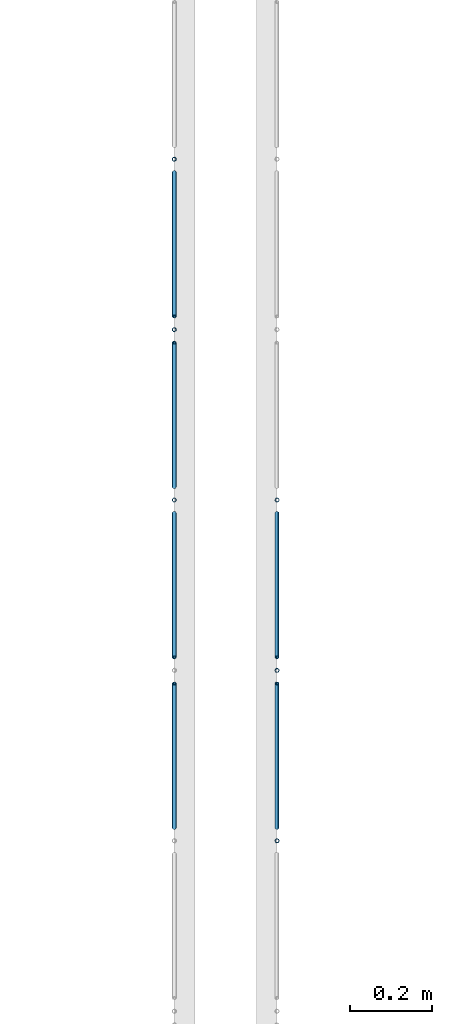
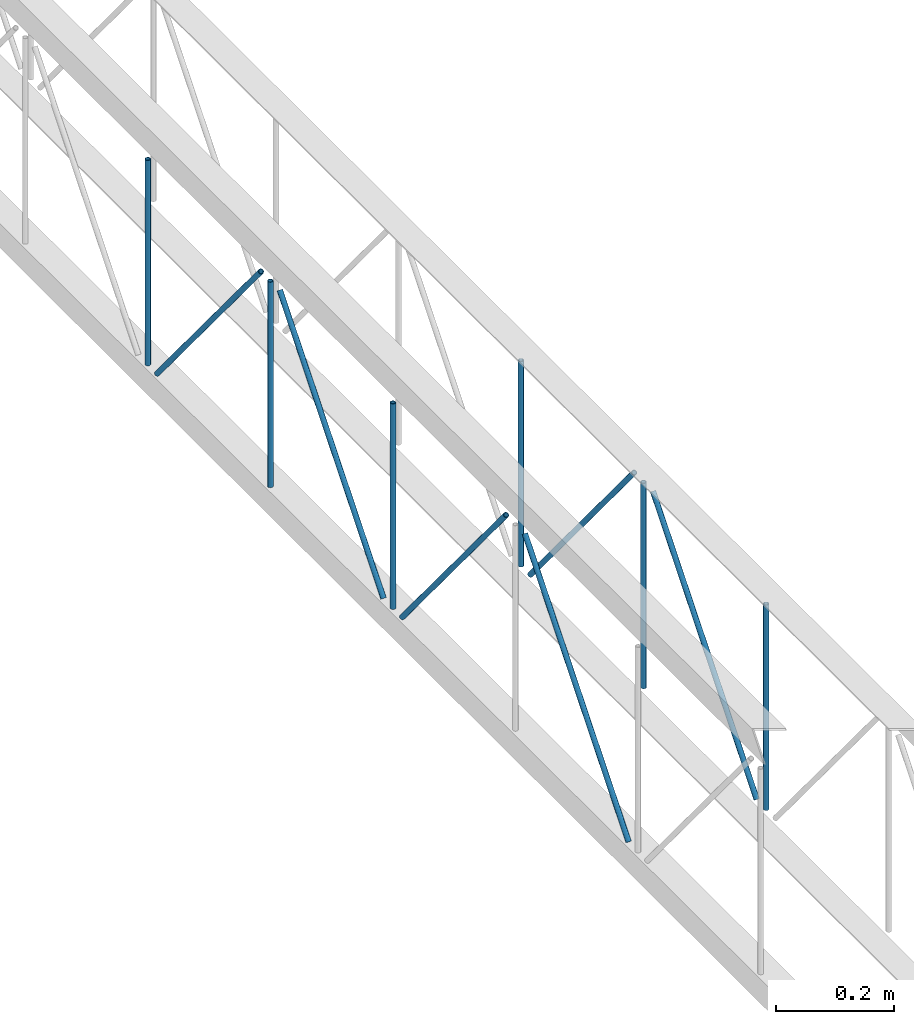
# One storey, part 49 of 153: 12 members, 2 elements without a shape of their own.
"""IFC4 building model written with IfcOpenShell, lengths in metres."""

from ifc_helpers import new_model, entity, si_unit, converted_unit, derived_unit, direction, frame, origin, place, context, subcontext, project, spatial, arc, indexed_curve, outline, extrude, source, transform, mapped, material, type_object, type_shapes, element, aggregate, save


model = new_model("IFC4")

# Units and contexts
model_context = context("Model", 3, precision=1e-05, world=origin(), true_north=direction((6.123031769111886e-17, 1.0)))
body_context = subcontext(model_context, "Body", "Model", "MODEL_VIEW")
ifc_project = project(units=[si_unit("LENGTHUNIT", "METRE"), si_unit("AREAUNIT", "SQUARE_METRE"), si_unit("VOLUMEUNIT", "CUBIC_METRE"), converted_unit("PLANEANGLEUNIT", "DEGREE", entity("IfcRatioMeasure", 0.017453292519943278), si_unit("PLANEANGLEUNIT", "RADIAN"), dimensions=[0, 0, 0, 0, 0, 0, 0]), si_unit("MASSUNIT", "GRAM", prefix="KILO"), derived_unit("MASSDENSITYUNIT", [(si_unit("MASSUNIT", "GRAM", prefix="KILO"), 1), (si_unit("LENGTHUNIT", "METRE"), -3)]), derived_unit("MOMENTOFINERTIAUNIT", [(si_unit("LENGTHUNIT", "METRE"), 4)]), si_unit("TIMEUNIT", "SECOND"), si_unit("FREQUENCYUNIT", "HERTZ"), si_unit("THERMODYNAMICTEMPERATUREUNIT", "DEGREE_CELSIUS"), derived_unit("THERMALTRANSMITTANCEUNIT", [(si_unit("MASSUNIT", "GRAM", prefix="KILO"), 1), (si_unit("THERMODYNAMICTEMPERATUREUNIT", "KELVIN"), -1), (si_unit("TIMEUNIT", "SECOND"), -3)]), derived_unit("VOLUMETRICFLOWRATEUNIT", [(si_unit("LENGTHUNIT", "METRE"), 3), (si_unit("TIMEUNIT", "SECOND"), -1)]), derived_unit("MASSFLOWRATEUNIT", [(si_unit("MASSUNIT", "GRAM", prefix="KILO"), 1), (si_unit("TIMEUNIT", "SECOND"), -1)]), derived_unit("ROTATIONALFREQUENCYUNIT", [(si_unit("TIMEUNIT", "SECOND"), -1)]), si_unit("ELECTRICCURRENTUNIT", "AMPERE"), si_unit("ELECTRICVOLTAGEUNIT", "VOLT"), si_unit("POWERUNIT", "WATT"), si_unit("FORCEUNIT", "NEWTON", prefix="KILO"), si_unit("ILLUMINANCEUNIT", "LUX"), si_unit("LUMINOUSFLUXUNIT", "LUMEN"), si_unit("LUMINOUSINTENSITYUNIT", "CANDELA"), derived_unit("USERDEFINED", [(si_unit("MASSUNIT", "GRAM", prefix="KILO"), -1), (si_unit("LENGTHUNIT", "METRE"), -2), (si_unit("TIMEUNIT", "SECOND"), 3), (si_unit("LUMINOUSFLUXUNIT", "LUMEN"), 1)]), derived_unit("SOUNDPOWERUNIT", [(si_unit("MASSUNIT", "GRAM", prefix="KILO"), 1), (si_unit("LENGTHUNIT", "METRE"), 2), (si_unit("TIMEUNIT", "SECOND"), -3)]), derived_unit("SOUNDPRESSUREUNIT", [(si_unit("MASSUNIT", "GRAM", prefix="KILO"), 1), (si_unit("LENGTHUNIT", "METRE"), -1), (si_unit("TIMEUNIT", "SECOND"), -2)]), derived_unit("LINEARVELOCITYUNIT", [(si_unit("LENGTHUNIT", "METRE"), 1), (si_unit("TIMEUNIT", "SECOND"), -1)]), si_unit("PRESSUREUNIT", "PASCAL"), derived_unit("USERDEFINED", [(si_unit("LENGTHUNIT", "METRE"), -2), (si_unit("MASSUNIT", "GRAM", prefix="KILO"), 1), (si_unit("TIMEUNIT", "SECOND"), -2)]), derived_unit("LINEARFORCEUNIT", [(si_unit("MASSUNIT", "GRAM", prefix="KILO"), 1), (si_unit("LENGTHUNIT", "METRE"), 1), (si_unit("TIMEUNIT", "SECOND"), -2), (si_unit("LENGTHUNIT", "METRE"), -1)]), derived_unit("PLANARFORCEUNIT", [(si_unit("MASSUNIT", "GRAM", prefix="KILO"), 1), (si_unit("LENGTHUNIT", "METRE"), 1), (si_unit("TIMEUNIT", "SECOND"), -2), (si_unit("LENGTHUNIT", "METRE"), -2)])], contexts=[model_context])

# Site, building, storey
site_placement = place(None, origin())
site = spatial("IfcSite", under=ifc_project, at=site_placement, Name="Superficie", CompositionType="ELEMENT")
building_placement = place(site_placement, origin())
building = spatial("IfcBuilding", under=site, at=building_placement, CompositionType="ELEMENT")
storey_placement = place(building_placement, frame((0.0, 0.0, 3.5999999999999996)))
storey = spatial("IfcBuildingStorey", under=building, at=storey_placement, Name="Nivel 1", CompositionType="ELEMENT", Elevation=3.5999999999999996)

# Assembly, members
assembly_1_placement = place(storey_placement, origin())
assembly_1 = element("IfcElementAssembly", 1, at=assembly_1_placement, inside=storey, Name="Viga de celosia 13:Viga de celosia 13", ObjectType="Viga de celosia 13:Viga de celosia 13", AssemblyPlace="NOTDEFINED", PredefinedType="TRUSS")
ifc_material = material(Name="Metal - Calibre delgado", Category="Metal")
member_type_1 = type_object("IfcMemberType", Name="HSS-Tubo estructural redondo:HSS 0.01", PredefinedType="BRACE", material=ifc_material)
shared_shape_1 = source(origin(), body_context, "Body", "SweptSolid", [
    extrude(outline(indexed_curve([(-0.005000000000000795, 7.502054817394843e-18), (-9.800269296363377e-18, -0.005000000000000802), (0.005000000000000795, -7.502054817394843e-18), (8.07772287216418e-18, 0.005000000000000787)], segments=[arc(1, 2, 3), arc(3, 4, 1)], self_intersect=False), holes=[indexed_curve([(0.003999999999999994, 7.222511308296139e-17), (6.910645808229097e-17, -0.004000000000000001), (-0.003999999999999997, -1.8650054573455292e-17), (-2.9156497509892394e-17, 0.003999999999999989)], segments=[arc(1, 2, 3), arc(3, 4, 1)], self_intersect=False)]), frame((-0.21200000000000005, 0.0, 0.0), z_axis=(1.0, 0.0, 0.0), x_axis=(0.0, 1.0, 0.0)), (0.0, 0.0, 1.0), 0.4240000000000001),
])
type_shapes(member_type_1, [shared_shape_1])
member_1_placement = place(assembly_1_placement, frame((-3.9132009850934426, -6.234029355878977, 0.24999999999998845), z_axis=(0.0, 1.0, 0.0), x_axis=(0.0, 0.0, 1.0)))
member_1 = element("IfcMember", 2, at=member_1_placement, type_object=member_type_1, material=ifc_material, Name="HSS-Tubo estructural redondo:HSS 0.01", ObjectType="HSS-Tubo estructural redondo:HSS 0.01", PredefinedType="BRACE", context=body_context, shape_type="MappedRepresentation", body=[
    mapped(shared_shape_1, transform((0.0, 0.0, 0.0), scale=1.0)),
])
member_2_placement = place(assembly_1_placement, frame((-3.9132009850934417, -5.819683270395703, 0.25), z_axis=(0.0, 1.0, 0.0), x_axis=(0.0, 0.0, 1.0)))
member_2 = element("IfcMember", 3, at=member_2_placement, type_object=member_type_1, material=ifc_material, Name="HSS-Tubo estructural redondo:HSS 0.01", ObjectType="HSS-Tubo estructural redondo:HSS 0.01", PredefinedType="BRACE", context=body_context, shape_type="MappedRepresentation", body=[
    mapped(shared_shape_1, transform((0.0, 0.0, 0.0), scale=1.0)),
])
member_3_placement = place(assembly_1_placement, frame((-3.9132009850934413, -5.40533718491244, 0.25), z_axis=(0.0, 1.0, 0.0), x_axis=(0.0, 0.0, 1.0)))
member_3 = element("IfcMember", 4, at=member_3_placement, type_object=member_type_1, material=ifc_material, Name="HSS-Tubo estructural redondo:HSS 0.01", ObjectType="HSS-Tubo estructural redondo:HSS 0.01", PredefinedType="BRACE", context=body_context, shape_type="MappedRepresentation", body=[
    mapped(shared_shape_1, transform((0.0, 0.0, 0.0), scale=1.0)),
])
member_type_2 = type_object("IfcMemberType", Name="HSS-Tubo estructural redondo:HSS 0.01", PredefinedType="BRACE", material=ifc_material)
shared_shape_2 = source(origin(), body_context, "Body", "SweptSolid", [
    extrude(outline(indexed_curve([(-0.005000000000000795, 7.502054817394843e-18), (-9.800269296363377e-18, -0.005000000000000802), (0.005000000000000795, -7.502054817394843e-18), (8.07772287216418e-18, 0.005000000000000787)], segments=[arc(1, 2, 3), arc(3, 4, 1)], self_intersect=False), holes=[indexed_curve([(0.003999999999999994, 7.222511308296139e-17), (6.910645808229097e-17, -0.004000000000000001), (-0.003999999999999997, -1.8650054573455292e-17), (-2.9156497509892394e-17, 0.003999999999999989)], segments=[arc(1, 2, 3), arc(3, 4, 1)], self_intersect=False)]), frame((-0.275, 0.0, 0.0), z_axis=(1.0, 0.0, 0.0), x_axis=(0.0, 1.0, 0.0)), (0.0, 0.0, 1.0), 0.55),
])
type_shapes(member_type_2, [shared_shape_2])
member_4_placement = place(assembly_1_placement, frame((-3.9132009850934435, -6.855548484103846, 0.25), z_axis=(0.0, 0.769975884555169, -0.638072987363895), x_axis=(0.0, 0.638072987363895, 0.769975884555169)))
member_4 = element("IfcMember", 5, at=member_4_placement, type_object=member_type_2, material=ifc_material, Name="HSS-Tubo estructural redondo:HSS 0.01", ObjectType="HSS-Tubo estructural redondo:HSS 0.01", PredefinedType="BRACE", context=body_context, shape_type="MappedRepresentation", body=[
    mapped(shared_shape_2, transform((0.0, 0.0, 0.0), scale=1.0)),
])
member_5_placement = place(assembly_1_placement, frame((-3.9132009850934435, -6.4412023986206, 0.25000000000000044), z_axis=(0.0, -0.7699758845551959, -0.6380729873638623), x_axis=(0.0, 0.6380729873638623, -0.7699758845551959)))
member_5 = element("IfcMember", 6, at=member_5_placement, type_object=member_type_2, material=ifc_material, Name="HSS-Tubo estructural redondo:HSS 0.01", ObjectType="HSS-Tubo estructural redondo:HSS 0.01", PredefinedType="BRACE", context=body_context, shape_type="MappedRepresentation", body=[
    mapped(shared_shape_2, transform((0.0, 0.0, 0.0), scale=1.0)),
])
member_6_placement = place(assembly_1_placement, frame((-3.913200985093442, -6.026856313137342, 0.25000000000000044), z_axis=(0.0, 0.7699758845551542, -0.6380729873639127), x_axis=(0.0, 0.6380729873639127, 0.7699758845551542)))
member_6 = element("IfcMember", 7, at=member_6_placement, type_object=member_type_2, material=ifc_material, Name="HSS-Tubo estructural redondo:HSS 0.01", ObjectType="HSS-Tubo estructural redondo:HSS 0.01", PredefinedType="BRACE", context=body_context, shape_type="MappedRepresentation", body=[
    mapped(shared_shape_2, transform((0.0, 0.0, 0.0), scale=1.0)),
])
member_7_placement = place(assembly_1_placement, frame((-3.9132009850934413, -5.612510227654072, 0.25), z_axis=(0.0, -0.7699758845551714, -0.638072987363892), x_axis=(0.0, 0.638072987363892, -0.7699758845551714)))
member_7 = element("IfcMember", 8, at=member_7_placement, type_object=member_type_2, material=ifc_material, Name="HSS-Tubo estructural redondo:HSS 0.01", ObjectType="HSS-Tubo estructural redondo:HSS 0.01", PredefinedType="BRACE", context=body_context, shape_type="MappedRepresentation", body=[
    mapped(shared_shape_2, transform((0.0, 0.0, 0.0), scale=1.0)),
])
aggregate(assembly_1, [member_1, member_2, member_3, member_4, member_5, member_6, member_7])

assembly_2_placement = place(storey_placement, origin())
assembly_2 = element("IfcElementAssembly", 9, at=assembly_2_placement, inside=storey, Name="Viga de celosia 13:Viga de celosia 13", ObjectType="Viga de celosia 13:Viga de celosia 13", AssemblyPlace="NOTDEFINED", PredefinedType="TRUSS")
member_type_3 = type_object("IfcMemberType", Name="HSS-Tubo estructural redondo:HSS 0.01", PredefinedType="BRACE", material=ifc_material)
shared_shape_3 = source(origin(), body_context, "Body", "SweptSolid", [
    extrude(outline(indexed_curve([(-0.005000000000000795, 2.0824731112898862e-17), (-2.3122945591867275e-17, -0.005000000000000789), (0.005000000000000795, -2.08247311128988e-17), (2.14003991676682e-17, 0.005000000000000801)], segments=[arc(1, 2, 3), arc(3, 4, 1)], self_intersect=False), holes=[indexed_curve([(0.003999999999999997, -1.3094283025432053e-17), (-1.531427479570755e-18, -0.003999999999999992), (-0.004, 4.0098531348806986e-17), (4.1481388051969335e-17, 0.0039999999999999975)], segments=[arc(1, 2, 3), arc(3, 4, 1)], self_intersect=False)]), frame((-0.21200000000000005, 0.0, 0.0), z_axis=(1.0, 0.0, 0.0), x_axis=(0.0, -1.0, 0.0)), (0.0, 0.0, 1.0), 0.4240000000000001),
])
type_shapes(member_type_3, [shared_shape_3])
member_8_placement = place(assembly_2_placement, frame((-3.663200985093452, -7.062721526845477, 0.25), z_axis=(0.0, 1.0, 0.0), x_axis=(0.0, 0.0, 1.0)))
member_8 = element("IfcMember", 10, at=member_8_placement, type_object=member_type_3, material=ifc_material, Name="HSS-Tubo estructural redondo:HSS 0.01", ObjectType="HSS-Tubo estructural redondo:HSS 0.01", PredefinedType="BRACE", context=body_context, shape_type="MappedRepresentation", body=[
    mapped(shared_shape_3, transform((0.0, 0.0, 0.0), scale=1.0)),
])
member_9_placement = place(assembly_2_placement, frame((-3.6632009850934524, -6.648375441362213, 0.25), z_axis=(0.0, 1.0, 0.0), x_axis=(0.0, 0.0, 1.0)))
member_9 = element("IfcMember", 11, at=member_9_placement, type_object=member_type_3, material=ifc_material, Name="HSS-Tubo estructural redondo:HSS 0.01", ObjectType="HSS-Tubo estructural redondo:HSS 0.01", PredefinedType="BRACE", context=body_context, shape_type="MappedRepresentation", body=[
    mapped(shared_shape_3, transform((0.0, 0.0, 0.0), scale=1.0)),
])
member_10_placement = place(assembly_2_placement, frame((-3.663200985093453, -6.234029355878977, 0.24999999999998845), z_axis=(0.0, 1.0, 0.0), x_axis=(0.0, 0.0, 1.0)))
member_10 = element("IfcMember", 12, at=member_10_placement, type_object=member_type_3, material=ifc_material, Name="HSS-Tubo estructural redondo:HSS 0.01", ObjectType="HSS-Tubo estructural redondo:HSS 0.01", PredefinedType="BRACE", context=body_context, shape_type="MappedRepresentation", body=[
    mapped(shared_shape_3, transform((0.0, 0.0, 0.0), scale=1.0)),
])
member_type_4 = type_object("IfcMemberType", Name="HSS-Tubo estructural redondo:HSS 0.01", PredefinedType="BRACE", material=ifc_material)
shared_shape_4 = source(origin(), body_context, "Body", "SweptSolid", [
    extrude(outline(indexed_curve([(-0.005000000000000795, 2.0824731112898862e-17), (-2.3122945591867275e-17, -0.005000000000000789), (0.005000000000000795, -2.08247311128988e-17), (2.14003991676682e-17, 0.005000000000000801)], segments=[arc(1, 2, 3), arc(3, 4, 1)], self_intersect=False), holes=[indexed_curve([(0.003999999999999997, -1.3094283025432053e-17), (-1.531427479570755e-18, -0.003999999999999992), (-0.004, 4.0098531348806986e-17), (4.1481388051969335e-17, 0.0039999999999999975)], segments=[arc(1, 2, 3), arc(3, 4, 1)], self_intersect=False)]), frame((-0.275, 0.0, 0.0), z_axis=(1.0, 0.0, 0.0), x_axis=(0.0, -1.0, 0.0)), (0.0, 0.0, 1.0), 0.55),
])
type_shapes(member_type_4, [shared_shape_4])
member_11_placement = place(assembly_2_placement, frame((-3.6632009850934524, -6.855548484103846, 0.25), z_axis=(0.0, 0.769975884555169, -0.638072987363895), x_axis=(0.0, 0.638072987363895, 0.769975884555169)))
member_11 = element("IfcMember", 13, at=member_11_placement, type_object=member_type_4, material=ifc_material, Name="HSS-Tubo estructural redondo:HSS 0.01", ObjectType="HSS-Tubo estructural redondo:HSS 0.01", PredefinedType="BRACE", context=body_context, shape_type="MappedRepresentation", body=[
    mapped(shared_shape_4, transform((0.0, 0.0, 0.0), scale=1.0)),
])
member_12_placement = place(assembly_2_placement, frame((-3.6632009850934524, -6.4412023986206, 0.25000000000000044), z_axis=(0.0, -0.7699758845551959, -0.6380729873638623), x_axis=(0.0, 0.6380729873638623, -0.7699758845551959)))
member_12 = element("IfcMember", 14, at=member_12_placement, type_object=member_type_4, material=ifc_material, Name="HSS-Tubo estructural redondo:HSS 0.01", ObjectType="HSS-Tubo estructural redondo:HSS 0.01", PredefinedType="BRACE", context=body_context, shape_type="MappedRepresentation", body=[
    mapped(shared_shape_4, transform((0.0, 0.0, 0.0), scale=1.0)),
])
aggregate(assembly_2, [member_8, member_9, member_10, member_11, member_12])

save(model, "model.ifc")
